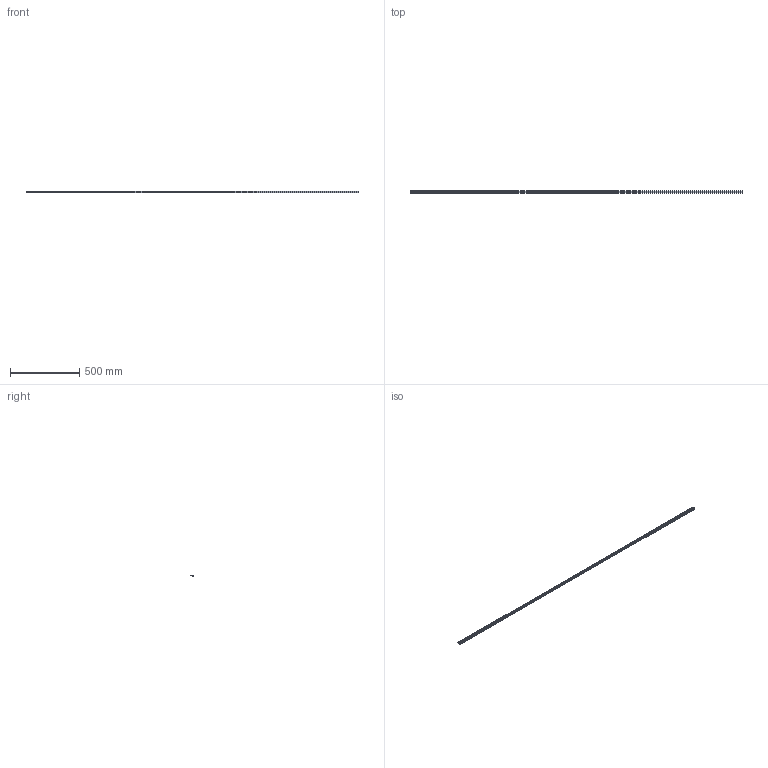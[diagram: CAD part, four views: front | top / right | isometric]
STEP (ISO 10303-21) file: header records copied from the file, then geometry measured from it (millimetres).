
FILE_DESCRIPTION(('CATIA V5 STEP Exchange'),'2;1');
FILE_NAME('C:\Users\varg\Desktop\VIJAY\9237990_3D.stp','2017-09-18T10:16:51+00:00',('none'),('none'),'CATIA Version 5 Release 20 SP 7 (IN-10)','CATIA V5 STEP AP203','none');
FILE_SCHEMA(('CONFIG_CONTROL_DESIGN'));
Length unit declared in the file: millimetre
Products named in the file (1): 9237990_3D
Bounding box: 2400 x 16 x 13.1 mm (x, y, z)
Volume: 115677.2 mm3; surface area: 161984.5 mm2
Topology: 1 solids, 1 shells, 38 faces, 108 edges, 72 vertices
Faces by surface type: plane 34, bspline 4
Entity records: 1322 total; most frequent: CARTESIAN_POINT 331, ORIENTED_EDGE 216, DIRECTION 164, EDGE_CURVE 108, VECTOR 96, LINE 96, VERTEX_POINT 72, ADVANCED_FACE 38
